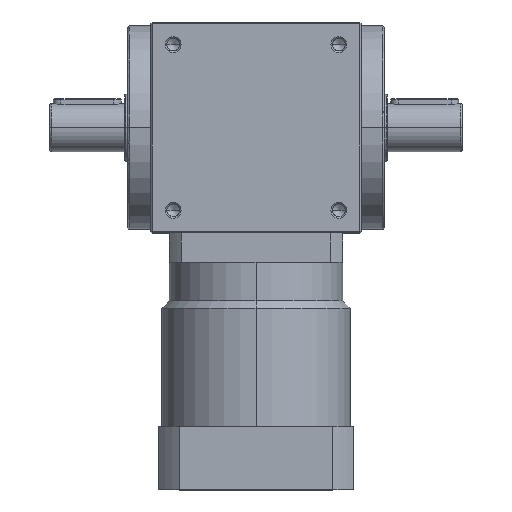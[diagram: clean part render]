
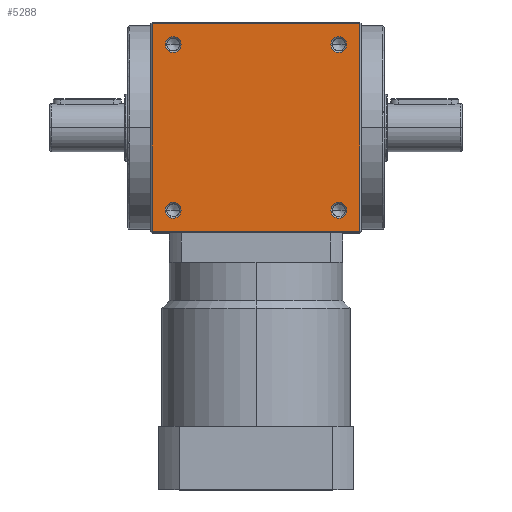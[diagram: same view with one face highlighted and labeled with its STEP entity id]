
A CAD part, top view. The second image highlights one B-rep face of the part: STEP entity #5288.
In plain terms, the highlighted planar face has unit normal (0, 0, 1).
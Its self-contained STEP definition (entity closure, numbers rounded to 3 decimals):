
#3 = CIRCLE ( 'NONE', #5842, 5.25 ) ;
#35 = VERTEX_POINT ( 'NONE', #9527 ) ;
#108 = DIRECTION ( 'NONE',  ( 1., 0., 0. ) ) ;
#218 = CARTESIAN_POINT ( 'NONE',  ( 49.75, 55., 70. ) ) ;
#276 = VERTEX_POINT ( 'NONE', #10572 ) ;
#417 = ORIENTED_EDGE ( 'NONE', *, *, #7307, .F. ) ;
#541 = FACE_BOUND ( 'NONE', #13067, .T. ) ;
#584 = CARTESIAN_POINT ( 'NONE',  ( 55., -55., 70. ) ) ;
#777 = DIRECTION ( 'NONE',  ( 1., 0., 0. ) ) ;
#971 = AXIS2_PLACEMENT_3D ( 'NONE', #5656, #12755, #6672 ) ;
#1101 = EDGE_CURVE ( 'NONE', #7946, #35, #5086, .T. ) ;
#1184 = CARTESIAN_POINT ( 'NONE',  ( -55., -55., 70. ) ) ;
#1268 = CARTESIAN_POINT ( 'NONE',  ( 69., 0., 70. ) ) ;
#1308 = DIRECTION ( 'NONE',  ( -1., 0., 0. ) ) ;
#1352 = VECTOR ( 'NONE', #7410, 1000. ) ;
#1390 = VECTOR ( 'NONE', #6741, 1000. ) ;
#1563 = DIRECTION ( 'NONE',  ( 1., 0., 0. ) ) ;
#2104 = CIRCLE ( 'NONE', #9034, 5.25 ) ;
#2147 = CIRCLE ( 'NONE', #2584, 5.25 ) ;
#2247 = DIRECTION ( 'NONE',  ( 1., 0., 0. ) ) ;
#2279 = CARTESIAN_POINT ( 'NONE',  ( 69., -69., 70. ) ) ;
#2292 = ORIENTED_EDGE ( 'NONE', *, *, #3990, .F. ) ;
#2403 = CARTESIAN_POINT ( 'NONE',  ( -69., 69., 70. ) ) ;
#2407 = ORIENTED_EDGE ( 'NONE', *, *, #12464, .F. ) ;
#2427 = VERTEX_POINT ( 'NONE', #10876 ) ;
#2493 = CARTESIAN_POINT ( 'NONE',  ( 55., -55., 70. ) ) ;
#2508 = ORIENTED_EDGE ( 'NONE', *, *, #1101, .F. ) ;
#2567 = AXIS2_PLACEMENT_3D ( 'NONE', #1184, #8381, #2247 ) ;
#2584 = AXIS2_PLACEMENT_3D ( 'NONE', #12254, #6158, #108 ) ;
#2706 = CARTESIAN_POINT ( 'NONE',  ( 0., 69., 70. ) ) ;
#2900 = VERTEX_POINT ( 'NONE', #3759 ) ;
#3408 = CARTESIAN_POINT ( 'NONE',  ( 0., 0., 70. ) ) ;
#3524 = DIRECTION ( 'NONE',  ( 1., 0., 0. ) ) ;
#3759 = CARTESIAN_POINT ( 'NONE',  ( 49.75, -55., 70. ) ) ;
#3779 = CARTESIAN_POINT ( 'NONE',  ( -49.75, 55., 70. ) ) ;
#3793 = CARTESIAN_POINT ( 'NONE',  ( 69., 69., 70. ) ) ;
#3990 = EDGE_CURVE ( 'NONE', #5365, #9784, #3, .T. ) ;
#4077 = LINE ( 'NONE', #1268, #1352 ) ;
#4169 = CARTESIAN_POINT ( 'NONE',  ( -69., 0., 70. ) ) ;
#4315 = VECTOR ( 'NONE', #1308, 1000. ) ;
#4427 = DIRECTION ( 'NONE',  ( -1., 0., 0. ) ) ;
#4462 = CIRCLE ( 'NONE', #6578, 5.25 ) ;
#4674 = VERTEX_POINT ( 'NONE', #2279 ) ;
#4854 = VECTOR ( 'NONE', #6159, 1000. ) ;
#4992 = CIRCLE ( 'NONE', #5024, 5.25 ) ;
#5024 = AXIS2_PLACEMENT_3D ( 'NONE', #584, #7699, #1563 ) ;
#5086 = CIRCLE ( 'NONE', #10067, 5.25 ) ;
#5229 = ORIENTED_EDGE ( 'NONE', *, *, #7020, .F. ) ;
#5288 = ADVANCED_FACE ( 'NONE', ( #8686, #11380, #541, #8372, #5608 ), #12504, .F. ) ;
#5365 = VERTEX_POINT ( 'NONE', #10622 ) ;
#5432 = EDGE_CURVE ( 'NONE', #276, #7360, #2104, .T. ) ;
#5605 = CARTESIAN_POINT ( 'NONE',  ( 60.25, -55., 70. ) ) ;
#5606 = CARTESIAN_POINT ( 'NONE',  ( -55., 55., 70. ) ) ;
#5608 = FACE_OUTER_BOUND ( 'NONE', #10664, .T. ) ;
#5656 = CARTESIAN_POINT ( 'NONE',  ( -55., 55., 70. ) ) ;
#5842 = AXIS2_PLACEMENT_3D ( 'NONE', #5606, #12709, #6629 ) ;
#6158 = DIRECTION ( 'NONE',  ( 0., 0., 1. ) ) ;
#6159 = DIRECTION ( 'NONE',  ( 0., 1., 0. ) ) ;
#6406 = EDGE_LOOP ( 'NONE', ( #6746, #2508 ) ) ;
#6413 = EDGE_CURVE ( 'NONE', #11713, #10070, #12219, .T. ) ;
#6578 = AXIS2_PLACEMENT_3D ( 'NONE', #2493, #9650, #3524 ) ;
#6629 = DIRECTION ( 'NONE',  ( 1., 0., 0. ) ) ;
#6672 = DIRECTION ( 'NONE',  ( 1., 0., 0. ) ) ;
#6741 = DIRECTION ( 'NONE',  ( -1., 0., 0. ) ) ;
#6746 = ORIENTED_EDGE ( 'NONE', *, *, #7557, .F. ) ;
#6858 = DIRECTION ( 'NONE',  ( 0., 0., 1. ) ) ;
#6915 = EDGE_LOOP ( 'NONE', ( #7067, #2292 ) ) ;
#7020 = EDGE_CURVE ( 'NONE', #2427, #10070, #12932, .T. ) ;
#7067 = ORIENTED_EDGE ( 'NONE', *, *, #9646, .F. ) ;
#7307 = EDGE_CURVE ( 'NONE', #13051, #2900, #4992, .T. ) ;
#7360 = VERTEX_POINT ( 'NONE', #12843 ) ;
#7410 = DIRECTION ( 'NONE',  ( 0., -1., 0. ) ) ;
#7557 = EDGE_CURVE ( 'NONE', #35, #7946, #2147, .T. ) ;
#7699 = DIRECTION ( 'NONE',  ( 0., 0., 1. ) ) ;
#7946 = VERTEX_POINT ( 'NONE', #218 ) ;
#8372 = FACE_BOUND ( 'NONE', #10899, .T. ) ;
#8381 = DIRECTION ( 'NONE',  ( 0., 0., 1. ) ) ;
#8580 = ORIENTED_EDGE ( 'NONE', *, *, #5432, .F. ) ;
#8686 = FACE_BOUND ( 'NONE', #6915, .T. ) ;
#8845 = AXIS2_PLACEMENT_3D ( 'NONE', #3408, #10534, #4427 ) ;
#9031 = CIRCLE ( 'NONE', #2567, 5.25 ) ;
#9034 = AXIS2_PLACEMENT_3D ( 'NONE', #12907, #6858, #777 ) ;
#9179 = ORIENTED_EDGE ( 'NONE', *, *, #6413, .T. ) ;
#9305 = CIRCLE ( 'NONE', #971, 5.25 ) ;
#9527 = CARTESIAN_POINT ( 'NONE',  ( 60.25, 55., 70. ) ) ;
#9646 = EDGE_CURVE ( 'NONE', #9784, #5365, #9305, .T. ) ;
#9650 = DIRECTION ( 'NONE',  ( 0., 0., 1. ) ) ;
#9653 = CARTESIAN_POINT ( 'NONE',  ( 55., 55., 70. ) ) ;
#9657 = DIRECTION ( 'NONE',  ( 0., 0., 1. ) ) ;
#9784 = VERTEX_POINT ( 'NONE', #3779 ) ;
#9901 = DIRECTION ( 'NONE',  ( 1., 0., 0. ) ) ;
#10052 = EDGE_CURVE ( 'NONE', #4674, #2427, #12097, .T. ) ;
#10067 = AXIS2_PLACEMENT_3D ( 'NONE', #9653, #9657, #9901 ) ;
#10070 = VERTEX_POINT ( 'NONE', #2403 ) ;
#10105 = ORIENTED_EDGE ( 'NONE', *, *, #10052, .F. ) ;
#10145 = EDGE_CURVE ( 'NONE', #2900, #13051, #4462, .T. ) ;
#10534 = DIRECTION ( 'NONE',  ( 0., 0., -1. ) ) ;
#10572 = CARTESIAN_POINT ( 'NONE',  ( -60.25, -55., 70. ) ) ;
#10622 = CARTESIAN_POINT ( 'NONE',  ( -60.25, 55., 70. ) ) ;
#10664 = EDGE_LOOP ( 'NONE', ( #10105, #2407, #9179, #5229 ) ) ;
#10876 = CARTESIAN_POINT ( 'NONE',  ( -69., -69., 70. ) ) ;
#10899 = EDGE_LOOP ( 'NONE', ( #417, #10982 ) ) ;
#10982 = ORIENTED_EDGE ( 'NONE', *, *, #10145, .F. ) ;
#11380 = FACE_BOUND ( 'NONE', #6406, .T. ) ;
#11713 = VERTEX_POINT ( 'NONE', #3793 ) ;
#12097 = LINE ( 'NONE', #12528, #4315 ) ;
#12219 = LINE ( 'NONE', #2706, #1390 ) ;
#12254 = CARTESIAN_POINT ( 'NONE',  ( 55., 55., 70. ) ) ;
#12464 = EDGE_CURVE ( 'NONE', #11713, #4674, #4077, .T. ) ;
#12504 = PLANE ( 'NONE',  #8845 ) ;
#12528 = CARTESIAN_POINT ( 'NONE',  ( 0., -69., 70. ) ) ;
#12640 = ORIENTED_EDGE ( 'NONE', *, *, #12856, .F. ) ;
#12709 = DIRECTION ( 'NONE',  ( 0., 0., 1. ) ) ;
#12755 = DIRECTION ( 'NONE',  ( 0., 0., 1. ) ) ;
#12843 = CARTESIAN_POINT ( 'NONE',  ( -49.75, -55., 70. ) ) ;
#12856 = EDGE_CURVE ( 'NONE', #7360, #276, #9031, .T. ) ;
#12907 = CARTESIAN_POINT ( 'NONE',  ( -55., -55., 70. ) ) ;
#12932 = LINE ( 'NONE', #4169, #4854 ) ;
#13051 = VERTEX_POINT ( 'NONE', #5605 ) ;
#13067 = EDGE_LOOP ( 'NONE', ( #12640, #8580 ) ) ;
